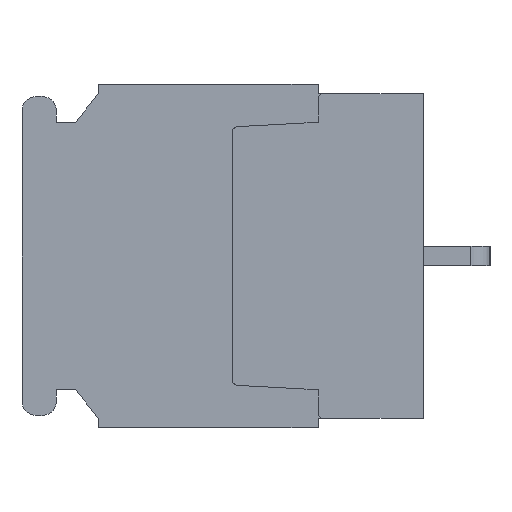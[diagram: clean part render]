
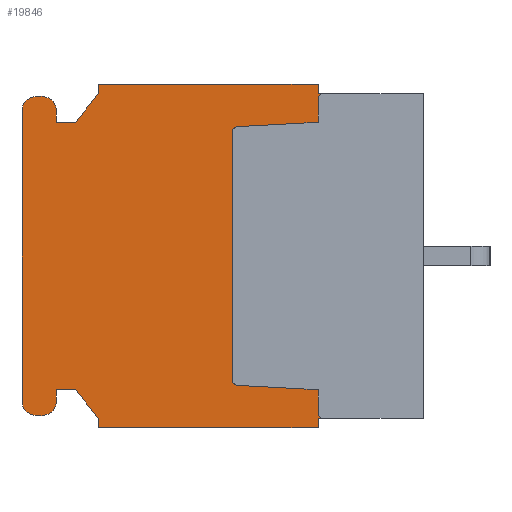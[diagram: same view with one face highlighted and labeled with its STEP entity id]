
A CAD part, left-side view. The second image highlights one B-rep face of the part: STEP entity #19846.
In plain terms, the highlighted planar face has unit normal (-1, 0, 0).
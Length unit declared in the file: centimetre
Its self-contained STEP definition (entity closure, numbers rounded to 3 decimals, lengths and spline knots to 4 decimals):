
#2420=VECTOR('',#24564,1.);
#2423=VECTOR('',#24569,1.);
#2427=VECTOR('',#24578,1.);
#2429=VECTOR('',#24581,1.);
#2432=VECTOR('',#24589,1.);
#2435=VECTOR('',#24597,1.);
#2437=VECTOR('',#24600,1.);
#2454=VECTOR('',#24627,1.);
#2456=VECTOR('',#24630,1.);
#2458=VECTOR('',#24633,1.);
#2459=VECTOR('',#24635,1.);
#2461=VECTOR('',#24638,1.);
#2463=VECTOR('',#24641,1.);
#2465=VECTOR('',#24644,1.);
#2467=VECTOR('',#24647,1.);
#2469=VECTOR('',#24650,1.);
#2472=VECTOR('',#24658,1.);
#2475=VECTOR('',#24666,1.);
#2478=VECTOR('',#24674,1.);
#2481=VECTOR('',#24682,1.);
#2483=VECTOR('',#24685,1.);
#2485=VECTOR('',#24688,1.);
#4496=LINE('',#30827,#2420);
#4499=LINE('',#30833,#2423);
#4503=LINE('',#30843,#2427);
#4505=LINE('',#30847,#2429);
#4508=LINE('',#30855,#2432);
#4511=LINE('',#30863,#2435);
#4513=LINE('',#30867,#2437);
#4530=LINE('',#30909,#2454);
#4532=LINE('',#30913,#2456);
#4534=LINE('',#30917,#2458);
#4535=LINE('',#30919,#2459);
#4537=LINE('',#30923,#2461);
#4539=LINE('',#30927,#2463);
#4541=LINE('',#30931,#2465);
#4543=LINE('',#30935,#2467);
#4545=LINE('',#30939,#2469);
#4548=LINE('',#30947,#2472);
#4551=LINE('',#30955,#2475);
#4554=LINE('',#30963,#2478);
#4557=LINE('',#30971,#2481);
#4559=LINE('',#30975,#2483);
#4561=LINE('',#30979,#2485);
#6531=VERTEX_POINT('',#30817);
#6532=VERTEX_POINT('',#30818);
#6534=VERTEX_POINT('',#30826);
#6535=VERTEX_POINT('',#30832);
#6536=VERTEX_POINT('',#30834);
#6538=VERTEX_POINT('',#30840);
#6539=VERTEX_POINT('',#30844);
#6540=VERTEX_POINT('',#30848);
#6541=VERTEX_POINT('',#30852);
#6542=VERTEX_POINT('',#30856);
#6543=VERTEX_POINT('',#30860);
#6544=VERTEX_POINT('',#30864);
#6563=VERTEX_POINT('',#30908);
#6564=VERTEX_POINT('',#30910);
#6565=VERTEX_POINT('',#30914);
#6566=VERTEX_POINT('',#30920);
#6567=VERTEX_POINT('',#30924);
#6568=VERTEX_POINT('',#30928);
#6569=VERTEX_POINT('',#30932);
#6570=VERTEX_POINT('',#30936);
#6571=VERTEX_POINT('',#30940);
#6572=VERTEX_POINT('',#30944);
#6573=VERTEX_POINT('',#30948);
#6574=VERTEX_POINT('',#30952);
#6575=VERTEX_POINT('',#30956);
#6576=VERTEX_POINT('',#30960);
#6577=VERTEX_POINT('',#30964);
#6578=VERTEX_POINT('',#30968);
#6579=VERTEX_POINT('',#30972);
#6580=VERTEX_POINT('',#30976);
#7371=CIRCLE('',#33857,0.03);
#7372=CIRCLE('',#33862,0.03);
#7373=CIRCLE('',#33866,0.03);
#7374=CIRCLE('',#33869,0.03);
#7379=CIRCLE('',#33887,0.075);
#7380=CIRCLE('',#33890,0.075);
#7381=CIRCLE('',#33893,0.075);
#7382=CIRCLE('',#33896,0.075);
#9794=EDGE_CURVE('',#6531,#6532,#7371,.T.);
#9800=EDGE_CURVE('',#6531,#6534,#4496,.T.);
#9803=EDGE_CURVE('',#6536,#6535,#4499,.T.);
#9806=EDGE_CURVE('',#6538,#6535,#7372,.T.);
#9808=EDGE_CURVE('',#6539,#6538,#4503,.T.);
#9810=EDGE_CURVE('',#6540,#6539,#4505,.T.);
#9812=EDGE_CURVE('',#6541,#6540,#7373,.T.);
#9814=EDGE_CURVE('',#6542,#6541,#4508,.T.);
#9816=EDGE_CURVE('',#6543,#6542,#7374,.T.);
#9818=EDGE_CURVE('',#6544,#6543,#4511,.T.);
#9820=EDGE_CURVE('',#6532,#6544,#4513,.T.);
#9841=EDGE_CURVE('',#6564,#6563,#4530,.T.);
#9843=EDGE_CURVE('',#6565,#6564,#4532,.T.);
#9845=EDGE_CURVE('',#6534,#6565,#4534,.T.);
#9846=EDGE_CURVE('',#6566,#6536,#4535,.T.);
#9848=EDGE_CURVE('',#6567,#6566,#4537,.T.);
#9850=EDGE_CURVE('',#6568,#6567,#4539,.T.);
#9852=EDGE_CURVE('',#6569,#6568,#4541,.T.);
#9854=EDGE_CURVE('',#6570,#6569,#4543,.T.);
#9856=EDGE_CURVE('',#6571,#6570,#4545,.T.);
#9858=EDGE_CURVE('',#6571,#6572,#7379,.T.);
#9860=EDGE_CURVE('',#6573,#6572,#4548,.T.);
#9862=EDGE_CURVE('',#6573,#6574,#7380,.T.);
#9864=EDGE_CURVE('',#6575,#6574,#4551,.T.);
#9866=EDGE_CURVE('',#6575,#6576,#7381,.T.);
#9868=EDGE_CURVE('',#6577,#6576,#4554,.T.);
#9870=EDGE_CURVE('',#6577,#6578,#7382,.T.);
#9872=EDGE_CURVE('',#6579,#6578,#4557,.T.);
#9874=EDGE_CURVE('',#6580,#6579,#4559,.T.);
#9876=EDGE_CURVE('',#6563,#6580,#4561,.T.);
#15291=ORIENTED_EDGE('',*,*,#9806,.F.);
#15292=ORIENTED_EDGE('',*,*,#9808,.F.);
#15293=ORIENTED_EDGE('',*,*,#9810,.F.);
#15294=ORIENTED_EDGE('',*,*,#9812,.F.);
#15295=ORIENTED_EDGE('',*,*,#9814,.F.);
#15296=ORIENTED_EDGE('',*,*,#9816,.F.);
#15297=ORIENTED_EDGE('',*,*,#9818,.F.);
#15298=ORIENTED_EDGE('',*,*,#9820,.F.);
#15299=ORIENTED_EDGE('',*,*,#9794,.F.);
#15300=ORIENTED_EDGE('',*,*,#9800,.T.);
#15301=ORIENTED_EDGE('',*,*,#9845,.T.);
#15302=ORIENTED_EDGE('',*,*,#9843,.T.);
#15303=ORIENTED_EDGE('',*,*,#9841,.T.);
#15304=ORIENTED_EDGE('',*,*,#9876,.T.);
#15305=ORIENTED_EDGE('',*,*,#9874,.T.);
#15306=ORIENTED_EDGE('',*,*,#9872,.T.);
#15307=ORIENTED_EDGE('',*,*,#9870,.F.);
#15308=ORIENTED_EDGE('',*,*,#9868,.T.);
#15309=ORIENTED_EDGE('',*,*,#9866,.F.);
#15310=ORIENTED_EDGE('',*,*,#9864,.T.);
#15311=ORIENTED_EDGE('',*,*,#9862,.F.);
#15312=ORIENTED_EDGE('',*,*,#9860,.T.);
#15313=ORIENTED_EDGE('',*,*,#9858,.F.);
#15314=ORIENTED_EDGE('',*,*,#9856,.T.);
#15315=ORIENTED_EDGE('',*,*,#9854,.T.);
#15316=ORIENTED_EDGE('',*,*,#9852,.T.);
#15317=ORIENTED_EDGE('',*,*,#9850,.T.);
#15318=ORIENTED_EDGE('',*,*,#9848,.T.);
#15319=ORIENTED_EDGE('',*,*,#9846,.T.);
#15320=ORIENTED_EDGE('',*,*,#9803,.T.);
#17382=EDGE_LOOP('',(#15291,#15292,#15293,#15294,#15295,#15296,#15297,#15298,
#15299,#15300,#15301,#15302,#15303,#15304,#15305,#15306,#15307,#15308,#15309,
#15310,#15311,#15312,#15313,#15314,#15315,#15316,#15317,#15318,#15319,#15320));
#18660=FACE_BOUND('',#17382,.T.);
#19846=ADVANCED_FACE('',(#18660),#20705,.F.);
#20705=PLANE('',#33900);
#24556=DIRECTION('',(-1.,0.,0.));
#24557=DIRECTION('',(0.,0.,-0.03));
#24564=DIRECTION('',(0.,1.,0.));
#24569=DIRECTION('',(0.,-1.,0.));
#24574=DIRECTION('',(-1.,0.,0.));
#24575=DIRECTION('',(0.,0.,-0.03));
#24578=DIRECTION('',(0.,0.,-1.));
#24581=DIRECTION('',(0.,-0.999,-0.054));
#24585=DIRECTION('',(-1.,0.,0.));
#24586=DIRECTION('',(0.,0.,-0.03));
#24589=DIRECTION('',(0.,0.,-1.));
#24593=DIRECTION('',(-1.,0.,0.));
#24594=DIRECTION('',(0.,0.,-0.03));
#24597=DIRECTION('',(0.,0.999,-0.054));
#24600=DIRECTION('',(0.,0.,-1.));
#24627=DIRECTION('',(0.,0.,-1.));
#24630=DIRECTION('',(0.,1.,0.));
#24633=DIRECTION('',(0.,0.,1.));
#24635=DIRECTION('',(0.,0.,1.));
#24638=DIRECTION('',(0.,-1.,0.));
#24641=DIRECTION('',(0.,0.,-1.));
#24644=DIRECTION('',(0.,-0.625,-0.781));
#24647=DIRECTION('',(0.,-1.,0.));
#24650=DIRECTION('',(0.,0.,1.));
#24654=DIRECTION('',(1.,0.,0.));
#24655=DIRECTION('',(0.,0.,-0.075));
#24658=DIRECTION('',(0.,-1.,0.));
#24662=DIRECTION('',(1.,0.,0.));
#24663=DIRECTION('',(0.,0.,-0.075));
#24666=DIRECTION('',(0.,0.,-1.));
#24670=DIRECTION('',(1.,0.,0.));
#24671=DIRECTION('',(0.,0.,-0.075));
#24674=DIRECTION('',(0.,1.,0.));
#24678=DIRECTION('',(1.,0.,0.));
#24679=DIRECTION('',(0.,0.,-0.075));
#24682=DIRECTION('',(0.,0.,1.));
#24685=DIRECTION('',(0.,1.,0.));
#24688=DIRECTION('',(0.,0.625,-0.781));
#24689=DIRECTION('',(1.,0.,0.));
#30816=CARTESIAN_POINT('',(-1.3,0.52,0.82));
#30817=CARTESIAN_POINT('',(-1.3,0.52,0.85));
#30818=CARTESIAN_POINT('',(-1.3,0.55,0.82));
#30826=CARTESIAN_POINT('',(-1.3,0.55,0.85));
#30827=CARTESIAN_POINT('',(-1.3,0.,0.85));
#30832=CARTESIAN_POINT('',(-1.3,0.52,-0.85));
#30833=CARTESIAN_POINT('',(-1.3,0.55,-0.85));
#30834=CARTESIAN_POINT('',(-1.3,0.55,-0.85));
#30839=CARTESIAN_POINT('',(-1.3,0.52,-0.82));
#30840=CARTESIAN_POINT('',(-1.3,0.55,-0.82));
#30843=CARTESIAN_POINT('',(-1.3,0.55,-0.82));
#30844=CARTESIAN_POINT('',(-1.3,0.55,-0.7));
#30847=CARTESIAN_POINT('',(-1.3,0.55,-0.7));
#30848=CARTESIAN_POINT('',(-1.3,0.9718,-0.6773));
#30851=CARTESIAN_POINT('',(-1.3,0.97,-0.6473));
#30852=CARTESIAN_POINT('',(-1.3,1.,-0.6473));
#30855=CARTESIAN_POINT('',(-1.3,1.,-0.6473));
#30856=CARTESIAN_POINT('',(-1.3,1.,0.6473));
#30859=CARTESIAN_POINT('',(-1.3,0.97,0.6473));
#30860=CARTESIAN_POINT('',(-1.3,0.9718,0.6773));
#30863=CARTESIAN_POINT('',(-1.3,0.9718,0.6773));
#30864=CARTESIAN_POINT('',(-1.3,0.55,0.7));
#30867=CARTESIAN_POINT('',(-1.3,0.55,0.7));
#30908=CARTESIAN_POINT('',(-1.3,1.7,0.85));
#30909=CARTESIAN_POINT('',(-1.3,1.7,0.9));
#30910=CARTESIAN_POINT('',(-1.3,1.7,0.9));
#30913=CARTESIAN_POINT('',(-1.3,0.55,0.9));
#30914=CARTESIAN_POINT('',(-1.3,0.55,0.9));
#30917=CARTESIAN_POINT('',(-1.3,0.55,0.85));
#30919=CARTESIAN_POINT('',(-1.3,0.55,-0.9));
#30920=CARTESIAN_POINT('',(-1.3,0.55,-0.9));
#30923=CARTESIAN_POINT('',(-1.3,1.7,-0.9));
#30924=CARTESIAN_POINT('',(-1.3,1.7,-0.9));
#30927=CARTESIAN_POINT('',(-1.3,1.7,-0.85));
#30928=CARTESIAN_POINT('',(-1.3,1.7,-0.85));
#30931=CARTESIAN_POINT('',(-1.3,1.82,-0.7));
#30932=CARTESIAN_POINT('',(-1.3,1.82,-0.7));
#30935=CARTESIAN_POINT('',(-1.3,1.92,-0.7));
#30936=CARTESIAN_POINT('',(-1.3,1.92,-0.7));
#30939=CARTESIAN_POINT('',(-1.3,1.92,-0.76));
#30940=CARTESIAN_POINT('',(-1.3,1.92,-0.76));
#30943=CARTESIAN_POINT('',(-1.3,1.995,-0.76));
#30944=CARTESIAN_POINT('',(-1.3,1.995,-0.835));
#30947=CARTESIAN_POINT('',(-1.3,2.025,-0.835));
#30948=CARTESIAN_POINT('',(-1.3,2.025,-0.835));
#30951=CARTESIAN_POINT('',(-1.3,2.025,-0.76));
#30952=CARTESIAN_POINT('',(-1.3,2.1,-0.76));
#30955=CARTESIAN_POINT('',(-1.3,2.1,0.76));
#30956=CARTESIAN_POINT('',(-1.3,2.1,0.76));
#30959=CARTESIAN_POINT('',(-1.3,2.025,0.76));
#30960=CARTESIAN_POINT('',(-1.3,2.025,0.835));
#30963=CARTESIAN_POINT('',(-1.3,1.995,0.835));
#30964=CARTESIAN_POINT('',(-1.3,1.995,0.835));
#30967=CARTESIAN_POINT('',(-1.3,1.995,0.76));
#30968=CARTESIAN_POINT('',(-1.3,1.92,0.76));
#30971=CARTESIAN_POINT('',(-1.3,1.92,0.7));
#30972=CARTESIAN_POINT('',(-1.3,1.92,0.7));
#30975=CARTESIAN_POINT('',(-1.3,1.82,0.7));
#30976=CARTESIAN_POINT('',(-1.3,1.82,0.7));
#30979=CARTESIAN_POINT('',(-1.3,1.7,0.85));
#30980=CARTESIAN_POINT('',(-1.3,1.0745,0.));
#33857=AXIS2_PLACEMENT_3D('',#30816,#24556,#24557);
#33862=AXIS2_PLACEMENT_3D('',#30839,#24574,#24575);
#33866=AXIS2_PLACEMENT_3D('',#30851,#24585,#24586);
#33869=AXIS2_PLACEMENT_3D('',#30859,#24593,#24594);
#33887=AXIS2_PLACEMENT_3D('',#30943,#24654,#24655);
#33890=AXIS2_PLACEMENT_3D('',#30951,#24662,#24663);
#33893=AXIS2_PLACEMENT_3D('',#30959,#24670,#24671);
#33896=AXIS2_PLACEMENT_3D('',#30967,#24678,#24679);
#33900=AXIS2_PLACEMENT_3D('',#30980,#24689,$);
